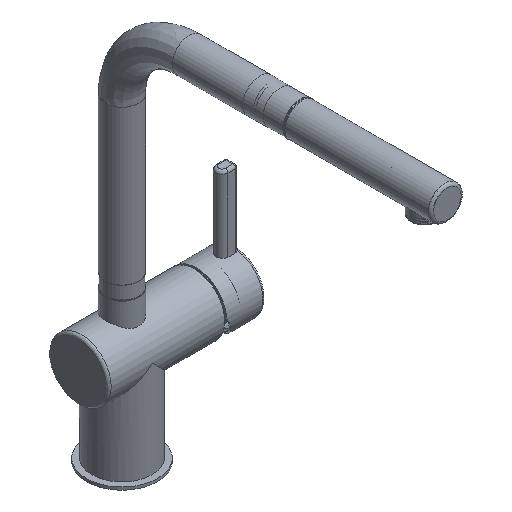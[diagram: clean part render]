
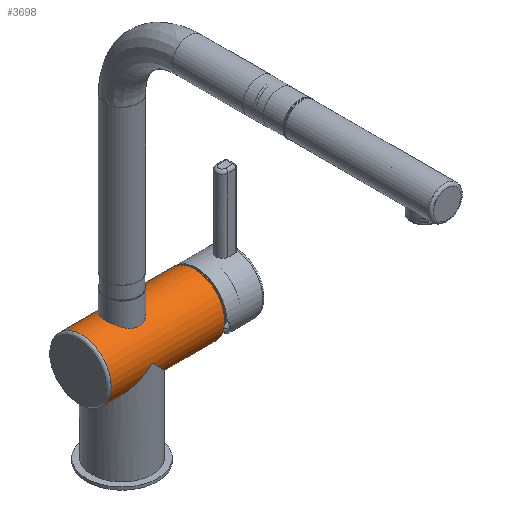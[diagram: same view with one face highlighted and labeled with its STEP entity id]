
A CAD part, isometric view. The second image highlights one B-rep face of the part: STEP entity #3698.
In plain terms, the highlighted cylindrical face has radius 22.5 mm (diameter 45 mm), a full revolution.
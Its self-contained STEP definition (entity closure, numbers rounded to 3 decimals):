
#84=(
BOUNDED_CURVE()
B_SPLINE_CURVE(2,(#67682,#67683,#67684,#67685,#67686),.UNSPECIFIED.,.F.,
 .F.)
B_SPLINE_CURVE_WITH_KNOTS((3,2,3),(0.,54.32,108.64),
 .UNSPECIFIED.)
CURVE()
GEOMETRIC_REPRESENTATION_ITEM()
RATIONAL_B_SPLINE_CURVE((1.,0.707,1.,0.707,1.))
REPRESENTATION_ITEM('')
);
#85=(
BOUNDED_CURVE()
B_SPLINE_CURVE(2,(#67687,#67688,#67689),.UNSPECIFIED.,.F.,.F.)
B_SPLINE_CURVE_WITH_KNOTS((3,3),(-54.32,0.),.UNSPECIFIED.)
CURVE()
GEOMETRIC_REPRESENTATION_ITEM()
RATIONAL_B_SPLINE_CURVE((1.,0.707,1.))
REPRESENTATION_ITEM('')
);
#86=(
BOUNDED_CURVE()
B_SPLINE_CURVE(2,(#67735,#67736,#67737),.UNSPECIFIED.,.F.,.F.)
B_SPLINE_CURVE_WITH_KNOTS((3,3),(-108.64,-54.32),
 .UNSPECIFIED.)
CURVE()
GEOMETRIC_REPRESENTATION_ITEM()
RATIONAL_B_SPLINE_CURVE((1.,0.707,1.))
REPRESENTATION_ITEM('')
);
#839=TRIMMED_CURVE($,#2088,(#67729),(#67730),.T.,.CARTESIAN.);
#840=TRIMMED_CURVE($,#2089,(#67753),(#67754),.T.,.CARTESIAN.);
#2087=CIRCLE('',#23262,22.5);
#2088=CIRCLE('',#23263,22.5);
#2089=CIRCLE('',#23264,22.5);
#2406=CYLINDRICAL_SURFACE('',#23174,22.5);
#3698=ADVANCED_FACE('',(#4933,#3811),#2406,.T.);
#3811=FACE_BOUND('',#6163,.T.);
#4933=FACE_OUTER_BOUND('',#6162,.T.);
#6162=EDGE_LOOP('',(#11877,#11878,#11879,#11880,#11881,#11882,#11883,#11884,
#11885,#11886));
#6163=EDGE_LOOP('',(#11887,#11888));
#11877=ORIENTED_EDGE('',*,*,#14782,.F.);
#11878=ORIENTED_EDGE('',*,*,#14787,.F.);
#11879=ORIENTED_EDGE('',*,*,#14788,.F.);
#11880=ORIENTED_EDGE('',*,*,#14786,.T.);
#11881=ORIENTED_EDGE('',*,*,#14791,.T.);
#11882=ORIENTED_EDGE('',*,*,#14788,.T.);
#11883=ORIENTED_EDGE('',*,*,#14784,.F.);
#11884=ORIENTED_EDGE('',*,*,#14789,.F.);
#11885=ORIENTED_EDGE('',*,*,#14783,.T.);
#11886=ORIENTED_EDGE('',*,*,#14787,.T.);
#11887=ORIENTED_EDGE('',*,*,#14785,.F.);
#11888=ORIENTED_EDGE('',*,*,#14790,.F.);
#14782=EDGE_CURVE('',#18605,#18605,#2087,.T.);
#14783=EDGE_CURVE('',#18611,#18612,#84,.T.);
#14784=EDGE_CURVE('',#18627,#18612,#85,.T.);
#14785=EDGE_CURVE('',#18616,#18613,#16757,.T.);
#14786=EDGE_CURVE('',#18614,#18608,#839,.T.);
#14787=EDGE_CURVE('',#18612,#18605,#16758,.T.);
#14788=EDGE_CURVE('',#18614,#18612,#16759,.T.);
#14789=EDGE_CURVE('',#18611,#18627,#86,.T.);
#14790=EDGE_CURVE('',#18613,#18616,#16760,.T.);
#14791=EDGE_CURVE('',#18608,#18614,#840,.T.);
#16757=B_SPLINE_CURVE_WITH_KNOTS('',3,(#67690,#67691,#67692,#67693,#67694,
#67695,#67696,#67697,#67698,#67699,#67700,#67701,#67702,#67703,#67704,#67705,
#67706,#67707,#67708,#67709,#67710,#67711,#67712,#67713,#67714,#67715,#67716,
#67717,#67718,#67719,#67720,#67721,#67722,#67723,#67724,#67725,#67726,#67727),
 .UNSPECIFIED.,.F.,.F.,(4,2,2,2,2,2,2,2,2,2,2,2,2,2,2,2,2,2,4),(-60.485,
-57.971,-55.456,-50.427,-45.375,-42.849,
-40.324,-37.798,-35.272,-30.22,
-25.191,-22.676,-20.162,-17.647,
-15.133,-10.103,-5.052,-2.526,
0.),.UNSPECIFIED.);
#16758=B_SPLINE_CURVE_WITH_KNOTS('',1,(#67731,#67732),.UNSPECIFIED.,.F.,
 .F.,(2,2),(39.07,93.07),.UNSPECIFIED.);
#16759=B_SPLINE_CURVE_WITH_KNOTS('',1,(#67733,#67734),.UNSPECIFIED.,.F.,
 .F.,(2,2),(8.57,39.07),.UNSPECIFIED.);
#16760=B_SPLINE_CURVE_WITH_KNOTS('',3,(#67738,#67739,#67740,#67741,#67742,
#67743,#67744,#67745,#67746,#67747,#67748,#67749,#67750,#67751),
 .UNSPECIFIED.,.F.,.F.,(4,2,2,2,2,2,4),(-80.647,-78.121,
-75.596,-70.544,-65.515,-63.,
-60.485),.UNSPECIFIED.);
#18605=VERTEX_POINT('',#66497);
#18608=VERTEX_POINT('',#66500);
#18611=VERTEX_POINT('',#66503);
#18612=VERTEX_POINT('',#66504);
#18613=VERTEX_POINT('',#66505);
#18614=VERTEX_POINT('',#66506);
#18616=VERTEX_POINT('',#66508);
#18627=VERTEX_POINT('',#66519);
#23174=AXIS2_PLACEMENT_3D('',#66372,#25738,$);
#23262=AXIS2_PLACEMENT_3D($,#67681,#25901,#25902);
#23263=AXIS2_PLACEMENT_3D($,#67728,#25903,#25904);
#23264=AXIS2_PLACEMENT_3D($,#67752,#25905,#25906);
#25738=DIRECTION('',(1.,0.,0.));
#25901=DIRECTION('',(1.,0.,0.));
#25902=DIRECTION('',(0.,1.,0.));
#25903=DIRECTION('',(1.,0.,0.));
#25904=DIRECTION('',(0.,1.,0.));
#25905=DIRECTION('',(1.,0.,0.));
#25906=DIRECTION('',(0.,0.,1.));
#66372=CARTESIAN_POINT('',(11.75,0.,0.));
#66497=CARTESIAN_POINT('',(54.,22.5,0.));
#66500=CARTESIAN_POINT('',(-30.5,0.,22.5));
#66503=CARTESIAN_POINT('',(0.,-22.5,0.));
#66504=CARTESIAN_POINT('',(0.,22.5,0.));
#66505=CARTESIAN_POINT('',(0.,12.5,18.708));
#66506=CARTESIAN_POINT('',(-30.5,22.5,0.));
#66508=CARTESIAN_POINT('',(-12.5,0.,22.5));
#66519=CARTESIAN_POINT('',(-22.5,0.,-22.5));
#67681=CARTESIAN_POINT('',(54.,0.,0.));
#67682=CARTESIAN_POINT('',(0.,-22.5,0.));
#67683=CARTESIAN_POINT('',(22.5,-22.5,-22.5));
#67684=CARTESIAN_POINT('',(22.5,0.,-22.5));
#67685=CARTESIAN_POINT('',(22.5,22.5,-22.5));
#67686=CARTESIAN_POINT('',(0.,22.5,0.));
#67687=CARTESIAN_POINT('',(-22.5,0.,-22.5));
#67688=CARTESIAN_POINT('',(-22.5,22.5,-22.5));
#67689=CARTESIAN_POINT('',(0.,22.5,0.));
#67690=CARTESIAN_POINT('',(-12.5,0.,22.5));
#67691=CARTESIAN_POINT('',(-12.5,-0.804,22.5));
#67692=CARTESIAN_POINT('',(-12.421,-1.629,22.456));
#67693=CARTESIAN_POINT('',(-12.096,-3.26,22.278));
#67694=CARTESIAN_POINT('',(-11.85,-4.066,22.144));
#67695=CARTESIAN_POINT('',(-10.884,-6.369,21.637));
#67696=CARTESIAN_POINT('',(-9.927,-7.751,21.156));
#67697=CARTESIAN_POINT('',(-7.746,-9.932,20.224));
#67698=CARTESIAN_POINT('',(-6.365,-10.885,19.706));
#67699=CARTESIAN_POINT('',(-4.068,-11.849,19.131));
#67700=CARTESIAN_POINT('',(-3.264,-12.095,18.974));
#67701=CARTESIAN_POINT('',(-1.634,-12.421,18.762));
#67702=CARTESIAN_POINT('',(-0.807,-12.5,18.708));
#67703=CARTESIAN_POINT('',(0.807,-12.5,18.708));
#67704=CARTESIAN_POINT('',(1.634,-12.421,18.762));
#67705=CARTESIAN_POINT('',(3.264,-12.095,18.974));
#67706=CARTESIAN_POINT('',(4.068,-11.849,19.131));
#67707=CARTESIAN_POINT('',(6.365,-10.885,19.706));
#67708=CARTESIAN_POINT('',(7.746,-9.932,20.224));
#67709=CARTESIAN_POINT('',(9.927,-7.751,21.156));
#67710=CARTESIAN_POINT('',(10.884,-6.369,21.637));
#67711=CARTESIAN_POINT('',(11.85,-4.066,22.144));
#67712=CARTESIAN_POINT('',(12.096,-3.26,22.278));
#67713=CARTESIAN_POINT('',(12.421,-1.629,22.456));
#67714=CARTESIAN_POINT('',(12.5,-0.804,22.5));
#67715=CARTESIAN_POINT('',(12.5,0.804,22.5));
#67716=CARTESIAN_POINT('',(12.421,1.629,22.456));
#67717=CARTESIAN_POINT('',(12.096,3.26,22.278));
#67718=CARTESIAN_POINT('',(11.85,4.066,22.144));
#67719=CARTESIAN_POINT('',(10.884,6.369,21.637));
#67720=CARTESIAN_POINT('',(9.927,7.751,21.156));
#67721=CARTESIAN_POINT('',(7.746,9.932,20.224));
#67722=CARTESIAN_POINT('',(6.365,10.885,19.706));
#67723=CARTESIAN_POINT('',(4.068,11.849,19.131));
#67724=CARTESIAN_POINT('',(3.264,12.095,18.974));
#67725=CARTESIAN_POINT('',(1.634,12.421,18.762));
#67726=CARTESIAN_POINT('',(0.807,12.5,18.708));
#67727=CARTESIAN_POINT('',(0.,12.5,18.708));
#67728=CARTESIAN_POINT('',(-30.5,0.,0.));
#67729=CARTESIAN_POINT('',(-30.5,22.5,0.));
#67730=CARTESIAN_POINT('',(-30.5,0.,22.5));
#67731=CARTESIAN_POINT('',(0.,22.5,0.));
#67732=CARTESIAN_POINT('',(54.,22.5,0.));
#67733=CARTESIAN_POINT('',(-30.5,22.5,0.));
#67734=CARTESIAN_POINT('',(0.,22.5,0.));
#67735=CARTESIAN_POINT('',(0.,-22.5,0.));
#67736=CARTESIAN_POINT('',(-22.5,-22.5,-22.5));
#67737=CARTESIAN_POINT('',(-22.5,0.,-22.5));
#67738=CARTESIAN_POINT('',(0.,12.5,18.708));
#67739=CARTESIAN_POINT('',(-0.807,12.5,18.708));
#67740=CARTESIAN_POINT('',(-1.634,12.421,18.762));
#67741=CARTESIAN_POINT('',(-3.264,12.095,18.974));
#67742=CARTESIAN_POINT('',(-4.068,11.849,19.131));
#67743=CARTESIAN_POINT('',(-6.365,10.885,19.706));
#67744=CARTESIAN_POINT('',(-7.746,9.932,20.224));
#67745=CARTESIAN_POINT('',(-9.927,7.751,21.156));
#67746=CARTESIAN_POINT('',(-10.884,6.369,21.637));
#67747=CARTESIAN_POINT('',(-11.85,4.066,22.144));
#67748=CARTESIAN_POINT('',(-12.096,3.26,22.278));
#67749=CARTESIAN_POINT('',(-12.421,1.629,22.456));
#67750=CARTESIAN_POINT('',(-12.5,0.804,22.5));
#67751=CARTESIAN_POINT('',(-12.5,0.,22.5));
#67752=CARTESIAN_POINT('',(-30.5,0.,0.));
#67753=CARTESIAN_POINT('',(-30.5,0.,22.5));
#67754=CARTESIAN_POINT('',(-30.5,22.5,0.));
